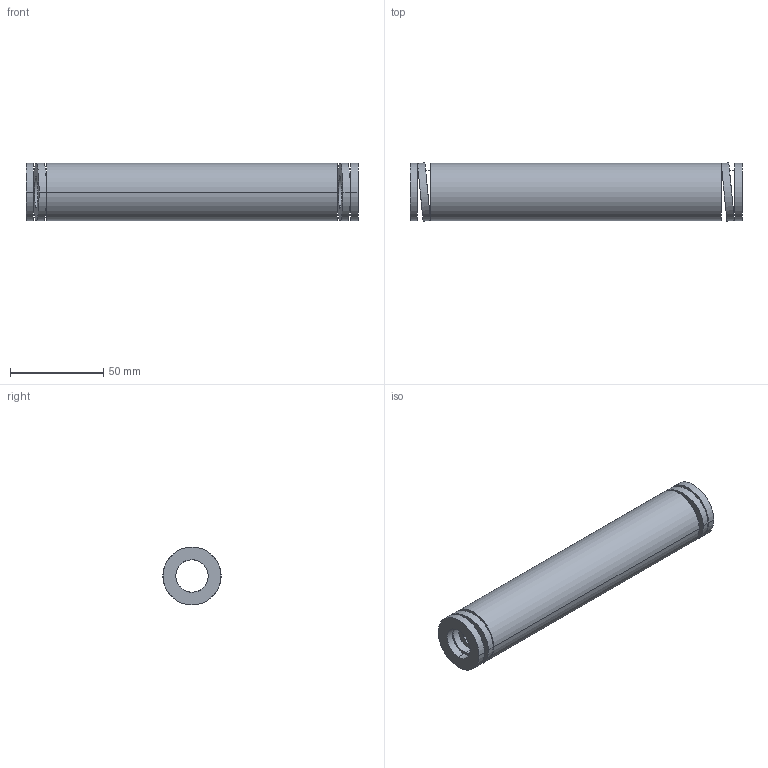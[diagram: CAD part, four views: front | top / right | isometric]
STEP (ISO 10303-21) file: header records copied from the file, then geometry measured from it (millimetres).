
FILE_DESCRIPTION(('CATIA V5 STEP Exchange'),'2;1');
FILE_NAME('C:\Users\Utente\Desktop\IO LAVORO\3D X SITO CF\X SITO\3D files 392B\392-B32-178.stp','2021-08-13T08:50:04+00:00',('none'),('none'),'CATIA Version 5 Release 20 GA (IN-10)','CATIA V5 STEP AP203','none');
FILE_SCHEMA(('CONFIG_CONTROL_DESIGN'));
Length unit declared in the file: millimetre
Products named in the file (1): 392-B32-178
Bounding box: 178 x 31.24 x 31 mm (x, y, z)
Volume: 88825.8 mm3; surface area: 31298.8 mm2
Topology: 1 solids, 1 shells, 38 faces, 92 edges, 64 vertices
Faces by surface type: cylinder 28, plane 10
Entity records: 1560 total; most frequent: CARTESIAN_POINT 667, ORIENTED_EDGE 184, DIRECTION 131, EDGE_CURVE 92, AXIS2_PLACEMENT_3D 66, VERTEX_POINT 64, EDGE_LOOP 56, ADVANCED_FACE 38
